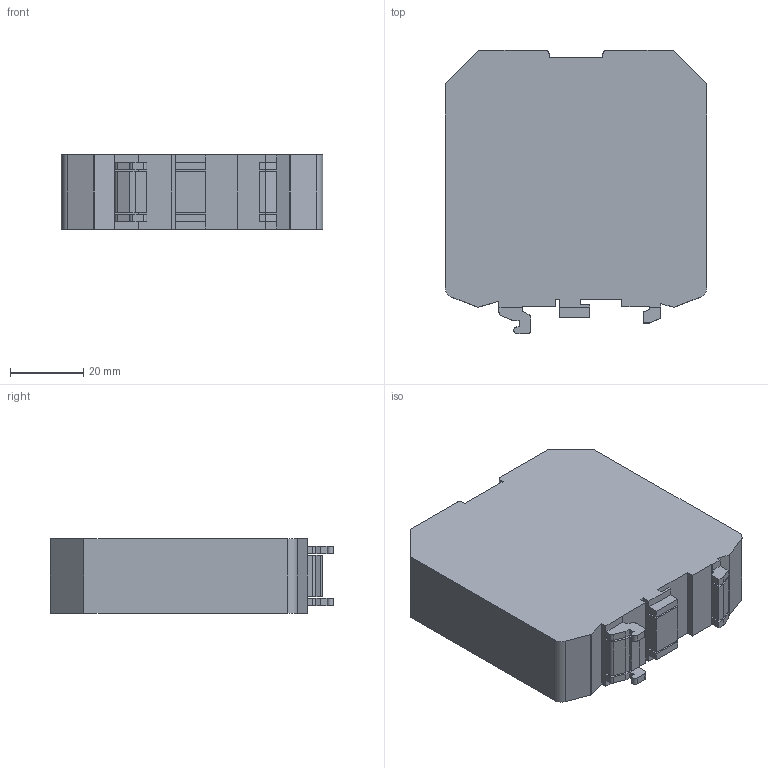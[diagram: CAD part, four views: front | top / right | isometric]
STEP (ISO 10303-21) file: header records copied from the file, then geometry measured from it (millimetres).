
FILE_DESCRIPTION(/* description */ (''),/* implementation_level */ '2;1');
FILE_NAME(/* name */ 'JUT1-50PE.stp',/* time_stamp */ '2023-02-14T15:55:05+08:00',/* author */ (''),/* organization */ (''),/* preprocessor_version */ 'ST-DEVELOPER v16.7',/* originating_system */ 'SIEMENS PLM Software NX 12.0',/* authorisation */ '');
FILE_SCHEMA (('AP203_CONFIGURATION_CONTROLLED_3D_DESIGN_OF_MECHANICAL_PARTS_AND_ASSEMBLIES_MIM_LF { 1 0 10303 403 2 1 2}'));
Length unit declared in the file: millimetre
Products named in the file (1): Admi01CC23451nyd
Bounding box: 71.3 x 77.2 x 20.2 mm (x, y, z)
Volume: 97266.6 mm3; surface area: 16799.9 mm2
Topology: 1 solids, 1 shells, 117 faces, 339 edges, 226 vertices
Faces by surface type: plane 98, cylinder 19
Full cylindrical faces by diameter (mm): 8.2 x2
Entity records: 3903 total; most frequent: CARTESIAN_POINT 681, ORIENTED_EDGE 674, DIRECTION 611, EDGE_CURVE 337, LINE 299, VECTOR 299, VERTEX_POINT 226, AXIS2_PLACEMENT_3D 156
